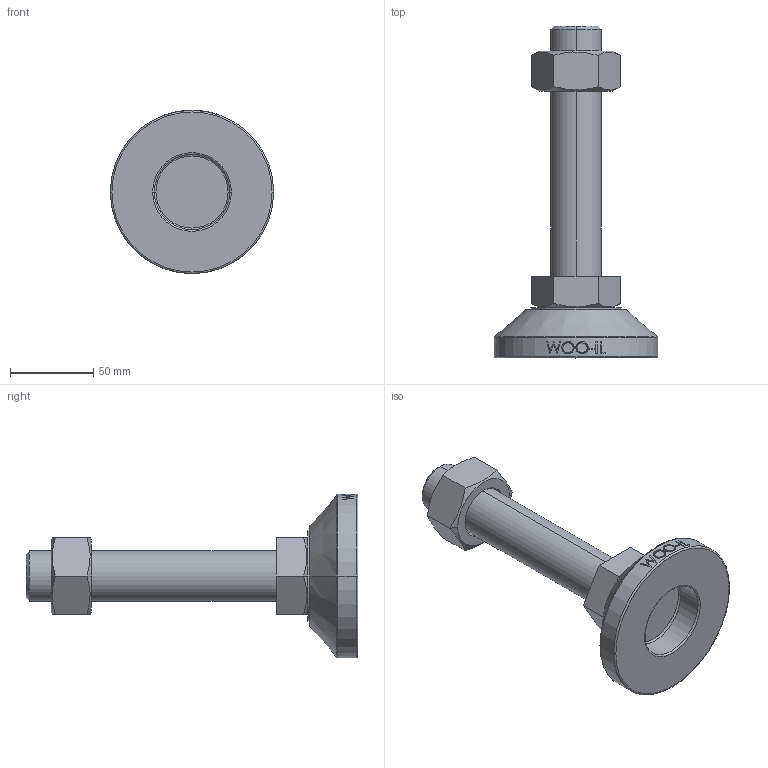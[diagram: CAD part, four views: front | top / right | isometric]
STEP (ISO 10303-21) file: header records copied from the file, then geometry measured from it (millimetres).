
FILE_DESCRIPTION (( 'STEP AP214' ), '1' );
FILE_NAME ('MF98-M30-150.step', '2021-02-03T08:23:59', ( '' ), ( '' ), 'SwSTEP 2.0', 'SolidWorks 2019', '' );
FILE_SCHEMA (( 'AUTOMOTIVE_DESIGN' ));
Length unit declared in the file: millimetre
Products named in the file (2): MF98-M30-150
Bounding box: 98 x 199 x 98 mm (x, y, z)
Volume: 319329.7 mm3; surface area: 51222.4 mm2
Topology: 3 solids, 3 shells, 106 faces, 243 edges, 154 vertices
Faces by surface type: plane 48, cylinder 18, bspline 16, cone 14, torus 10
Entity records: 4554 total; most frequent: CARTESIAN_POINT 2211, ORIENTED_EDGE 486, DIRECTION 439, EDGE_CURVE 243, AXIS2_PLACEMENT_3D 170, VERTEX_POINT 154, EDGE_LOOP 119, ADVANCED_FACE 106
